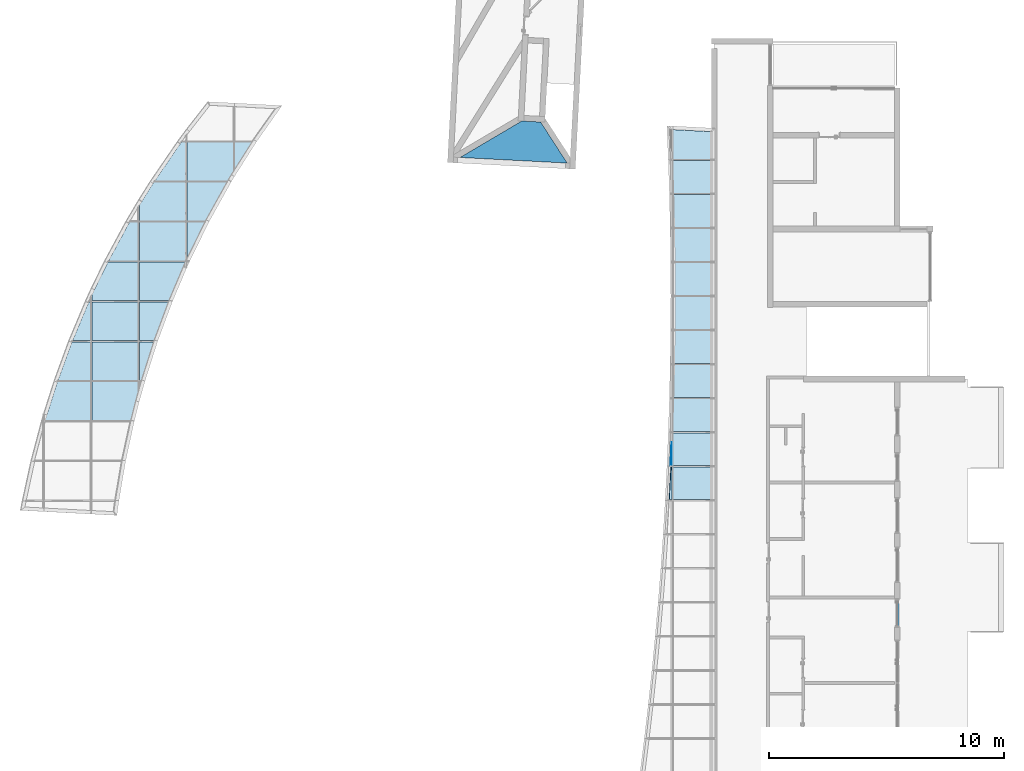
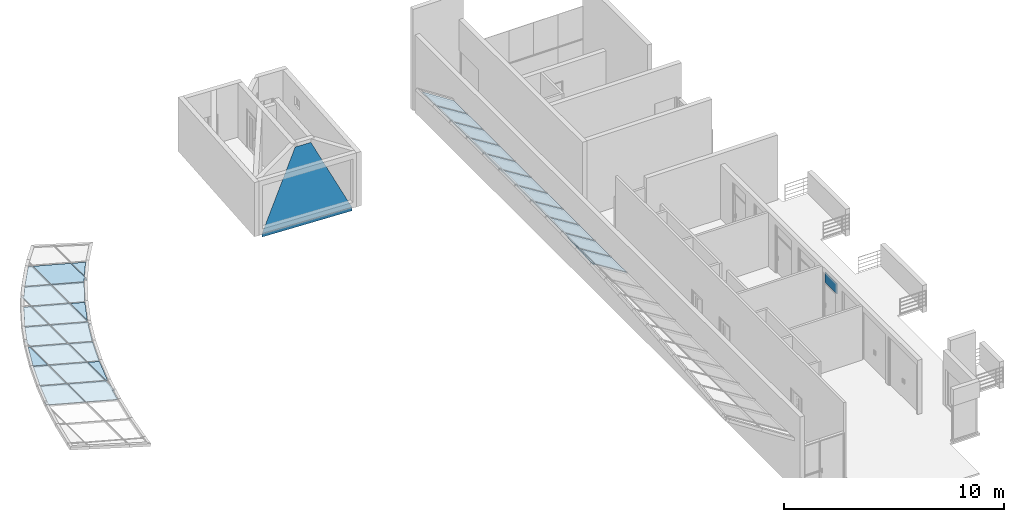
# One storey, part 15 of 33: 32 plates, 1 slab, 4 elements without a shape of their own.
"""IFC2X3 building model written with IfcOpenShell, lengths in millimetres."""

import ifcopenshell
import ifcopenshell.guid

model = None  # the IFC model being written
_history = None  # IfcOwnerHistory: only IFC2X3 demands one
_inside = {}  # id of a spatial element -> (the spatial element, [elements in it])
_under = {}  # id of a project, library or spatial element -> (it, [spatial elements below it])
_declared = {}  # id of a project -> (the project, [libraries it declares])
_typed = {}  # id of a type object -> (the type object, [elements of that type])
_made_of = {}  # id of a material, layer set ... -> (it, [elements and type objects made of it])


def new_model(schema):
    """Start an empty IFC model of exactly this schema.

    Asked for "IFC4X3", IfcOpenShell would pick the latest addendum, in which some entities
    have other attributes; the version numbers below select the first issue.
    IFC2X3 requires an IfcOwnerHistory on every rooted entity: one is made here for all.
    """
    global model, _history
    if schema == "IFC4X3":
        model = ifcopenshell.file(schema_version=(4, 3, 0, 0))
    else:
        model = ifcopenshell.file(schema=schema)
    _inside.clear()
    _under.clear()
    _declared.clear()
    _typed.clear()
    _made_of.clear()
    _history = None
    if model.schema == "IFC2X3":
        org = make("IfcOrganization", Name="unknown")
        user = make(
            "IfcPersonAndOrganization",
            ThePerson=make("IfcPerson", FamilyName="unknown"),
            TheOrganization=org,
        )
        app = make(
            "IfcApplication",
            ApplicationDeveloper=org,
            Version="unknown",
            ApplicationFullName="unknown",
            ApplicationIdentifier="unknown",
        )
        _history = make(
            "IfcOwnerHistory",
            OwningUser=user,
            OwningApplication=app,
            ChangeAction="ADDED",
            CreationDate=0,
        )
    return model


def make(cls, **values):
    """One entity of the class cls with the attributes given. An attribute that is None is left unset."""
    return model.create_entity(
        cls, **{name: value for name, value in values.items() if value is not None}
    )


def entity(cls, *values):
    """Any entity or typed value of the class cls, its attributes in the order of the schema. None: left unset."""
    e = model.create_entity(cls)
    for i, value in enumerate(values):
        if value is not None:
            e[i] = value
    return e


def rooted(cls, **values):
    """An entity with a GlobalId (a new one), such as an element, a storey or a relation."""
    return make(cls, GlobalId=ifcopenshell.guid.new(), OwnerHistory=_history, **values)


def si_unit(unit_type, name, prefix=None):
    """IfcSIUnit, for example si_unit("LENGTHUNIT", "METRE", prefix="MILLI")."""
    return make("IfcSIUnit", UnitType=unit_type, Prefix=prefix, Name=name)


def converted_unit(unit_type, name, factor, base, dimensions=None, offset=None):
    """IfcConversionBasedUnit, such as the inch: factor (a typed value) times the base unit."""
    return make(
        "IfcConversionBasedUnit"
        if offset is None
        else "IfcConversionBasedUnitWithOffset",
        ConversionOffset=offset,
        Dimensions=None
        if dimensions is None
        else entity("IfcDimensionalExponents", *dimensions),
        UnitType=unit_type,
        Name=name,
        ConversionFactor=make(
            "IfcMeasureWithUnit", ValueComponent=factor, UnitComponent=base
        ),
    )


def derived_unit(unit_type, elements):
    """IfcDerivedUnit: a product of units, each with its exponent."""
    return make(
        "IfcDerivedUnit",
        Elements=[
            make("IfcDerivedUnitElement", Unit=unit, Exponent=power)
            for unit, power in elements
        ],
        UnitType=unit_type,
    )


def assignment(units):
    """IfcUnitAssignment: the units of a project."""
    return None if units is None else make("IfcUnitAssignment", Units=units)


def point(xyz):
    """IfcCartesianPoint."""
    return None if xyz is None else make("IfcCartesianPoint", Coordinates=xyz)


def direction(xyz):
    """IfcDirection."""
    return None if xyz is None else make("IfcDirection", DirectionRatios=xyz)


def frame(location, z_axis=None, x_axis=None):
    """IfcAxis2Placement3D, a coordinate frame: its origin and axes. An axis left out is left unset."""
    return make(
        "IfcAxis2Placement3D",
        Location=point(location),
        Axis=direction(z_axis),
        RefDirection=direction(x_axis),
    )


def frame_2d(location, x_axis=None):
    """IfcAxis2Placement2D, a coordinate frame in the plane: its origin and x axis."""
    return make(
        "IfcAxis2Placement2D", Location=point(location), RefDirection=direction(x_axis)
    )


def origin():
    """The frame at (0, 0, 0) with its axes left unset."""
    return frame((0.0, 0.0, 0.0))


def origin_2d_with_axis():
    """The frame at (0, 0) in the plane with the x axis (1, 0) written out."""
    return frame_2d((0.0, 0.0), x_axis=(1.0, 0.0))


def place(relative_to, where):
    """IfcLocalPlacement: puts the frame where relative to a parent placement (None: the world)."""
    return make(
        "IfcLocalPlacement", PlacementRelTo=relative_to, RelativePlacement=where
    )


def context(
    kind, dimensions, precision=None, world=None, true_north=None, identifier=None
):
    """IfcGeometricRepresentationContext, for example the 3D "Model" context."""
    return make(
        "IfcGeometricRepresentationContext",
        ContextIdentifier=identifier,
        ContextType=kind,
        CoordinateSpaceDimension=dimensions,
        Precision=precision,
        WorldCoordinateSystem=world,
        TrueNorth=true_north,
    )


def subcontext(parent, identifier, kind, view, scale=None):
    """IfcGeometricRepresentationSubContext, for example "Body" below "Model"."""
    return make(
        "IfcGeometricRepresentationSubContext",
        ContextIdentifier=identifier,
        ContextType=kind,
        ParentContext=parent,
        TargetScale=scale,
        TargetView=view,
    )


def project(units=None, contexts=None):
    """IfcProject with its units and contexts."""
    return rooted(
        "IfcProject",
        Name="project",
        RepresentationContexts=contexts,
        UnitsInContext=assignment(units),
    )


def spatial(cls, under=None, at=None, **own):
    """A site, building, storey or space (cls), placed at a placement, below another one or the project."""
    s = rooted(cls, ObjectPlacement=at, **own)
    if under is not None:
        _under.setdefault(under.id(), (under, []))[1].append(s)
    return s


def polyline(points):
    """IfcPolyline through the points."""
    return make("IfcPolyline", Points=[point(p) for p in points])


def profile(cls, at=None, kind="AREA", **sizes):
    """A parametric profile (cls). Its sizes go by their IFC names, for example OverallWidth=200.0."""
    return make(cls, ProfileType=kind, Position=at, **sizes)


def rectangle(**sizes):
    """IfcRectangleProfileDef."""
    return profile("IfcRectangleProfileDef", **sizes)


def outline(outer, holes=None, kind="AREA"):
    """IfcArbitraryClosedProfileDef: a profile drawn as a closed curve; with holes, ...WithVoids."""
    if holes is None:
        return make("IfcArbitraryClosedProfileDef", ProfileType=kind, OuterCurve=outer)
    return make(
        "IfcArbitraryProfileDefWithVoids",
        ProfileType=kind,
        OuterCurve=outer,
        InnerCurves=holes,
    )


def extrude(swept, where, along, depth):
    """IfcExtrudedAreaSolid: the profile swept, set in the frame where, extruded along a direction by depth."""
    return make(
        "IfcExtrudedAreaSolid",
        SweptArea=swept,
        Position=where,
        ExtrudedDirection=direction(along),
        Depth=depth,
    )


def shape(context_of_items, identifier, shape_type, items):
    """IfcShapeRepresentation: the items that make up one representation, for example the "Body"."""
    return make(
        "IfcShapeRepresentation",
        ContextOfItems=context_of_items,
        RepresentationIdentifier=identifier,
        RepresentationType=shape_type,
        Items=items,
    )


def source(mapping_origin, context_of_items, identifier, shape_type, items):
    """IfcRepresentationMap: a shape defined once, which mapped items show again and again."""
    return make(
        "IfcRepresentationMap",
        MappingOrigin=mapping_origin,
        MappedRepresentation=shape(context_of_items, identifier, shape_type, items),
    )


def transform(
    local_origin,
    x_axis=None,
    y_axis=None,
    z_axis=None,
    scale=None,
    scale2=None,
    scale3=None,
    uniform=True,
):
    """IfcCartesianTransformationOperator3D, or its non-uniform kind. x_axis, y_axis, z_axis: its Axis1, 2, 3."""
    if uniform:
        return make(
            "IfcCartesianTransformationOperator3D",
            Axis1=direction(x_axis),
            Axis2=direction(y_axis),
            LocalOrigin=point(local_origin),
            Scale=scale,
            Axis3=direction(z_axis),
        )
    return make(
        "IfcCartesianTransformationOperator3DnonUniform",
        Axis1=direction(x_axis),
        Axis2=direction(y_axis),
        LocalOrigin=point(local_origin),
        Scale=scale,
        Axis3=direction(z_axis),
        Scale2=scale2,
        Scale3=scale3,
    )


def mapped(mapping_source, mapping_target):
    """IfcMappedItem: shows the shape of a source again, moved by a transform."""
    return make(
        "IfcMappedItem", MappingSource=mapping_source, MappingTarget=mapping_target
    )


def material(Name=None, Category=None):
    """IfcMaterial."""
    return make("IfcMaterial", Name=Name, Category=Category)


def layer(
    of_material, thickness, ventilated=None, Name=None, Category=None, Priority=None
):
    """IfcMaterialLayer: one layer of a wall or slab, of a material (None: an air gap)."""
    return make(
        "IfcMaterialLayer",
        Material=of_material,
        LayerThickness=thickness,
        IsVentilated=ventilated,
        Name=Name,
        Category=Category,
        Priority=Priority,
    )


def layer_set(layers, Name=None):
    """IfcMaterialLayerSet."""
    return make("IfcMaterialLayerSet", MaterialLayers=layers, LayerSetName=Name)


def layer_usage(for_layer_set, set_direction, sense, offset, extent=None):
    """IfcMaterialLayerSetUsage: how a layer set lies in its element."""
    return make(
        "IfcMaterialLayerSetUsage",
        ForLayerSet=for_layer_set,
        LayerSetDirection=set_direction,
        DirectionSense=sense,
        OffsetFromReferenceLine=offset,
        ReferenceExtent=extent,
    )


def made_of(thing, what):
    """Note that an element or type object is made of a material, layer set ...; save() writes the relation."""
    if what is not None:
        _made_of.setdefault(what.id(), (what, []))[1].append(thing)
    return thing


def type_object(cls, material=None, **own):
    """A type object (cls), such as IfcWallType, which elements share."""
    return made_of(rooted(cls, **own), material)


def type_shapes(of_type, sources):
    """Give a type object the sources (RepresentationMaps) that its elements show as mapped items."""
    of_type.RepresentationMaps = sources


def element(
    cls,
    number,
    at=None,
    inside=None,
    cuts=None,
    type_object=None,
    material=None,
    context=None,
    identifier="Body",
    shape_type=None,
    held_by="IfcProductDefinitionShape",
    body=None,
    shapes=None,
    **own,
):
    """One element of the class cls, such as IfcWall. Its Tag is "e" and its number.

    at: its placement. inside: the storey or other place that contains it. cuts: it is an
    opening in that element (IfcRelVoidsElement). A single representation is given by context,
    identifier, shape_type and body (its items); several are given by shapes. held_by: the class
    of the entity that holds the representations. save() writes the other relations.
    """
    e = rooted(cls, Tag="e%d" % number, ObjectPlacement=at, **own)
    if body is not None:
        shapes = [shape(context, identifier, shape_type, body)]
    if shapes is not None:
        e.Representation = make(held_by, Representations=shapes)
    if inside is not None:
        _inside.setdefault(inside.id(), (inside, []))[1].append(e)
    if cuts is not None:
        rooted(
            "IfcRelVoidsElement", RelatingBuildingElement=cuts, RelatedOpeningElement=e
        )
    if type_object is not None:
        _typed.setdefault(type_object.id(), (type_object, []))[1].append(e)
    return made_of(e, material)


def aggregate(whole, parts):
    """IfcRelAggregates: a whole, such as a stair, and the parts it consists of."""
    return rooted("IfcRelAggregates", RelatingObject=whole, RelatedObjects=parts)


def save(model, path):
    """Write the relations noted so far, then the file.

    IfcRelAggregates (storeys below a building ...), IfcRelContainedInSpatialStructure (elements
    in a storey), IfcRelDefinesByType, IfcRelAssociatesMaterial and IfcRelDeclares: one each for
    every whole, place, type object, material and project.
    """
    for whole, parts in _under.values():
        aggregate(whole, parts)
    for where, things in _inside.values():
        rooted(
            "IfcRelContainedInSpatialStructure",
            RelatedElements=things,
            RelatingStructure=where,
        )
    for kind, things in _typed.values():
        rooted("IfcRelDefinesByType", RelatedObjects=things, RelatingType=kind)
    for what, things in _made_of.values():
        rooted("IfcRelAssociatesMaterial", RelatedObjects=things, RelatingMaterial=what)
    for by, libraries in _declared.values():
        rooted("IfcRelDeclares", RelatingContext=by, RelatedDefinitions=libraries)
    model.write(path)


model = new_model("IFC2X3")

# Units and contexts
model_context = context("Model", 3, precision=0.01, world=origin(), true_north=direction((6.12303176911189e-17, 1.0)))
body_context = subcontext(model_context, "Body", "Model", "MODEL_VIEW")
ifc_project = project(units=[si_unit("LENGTHUNIT", "METRE", prefix="MILLI"), si_unit("AREAUNIT", "SQUARE_METRE"), si_unit("VOLUMEUNIT", "CUBIC_METRE"), converted_unit("PLANEANGLEUNIT", "DEGREE", entity("IfcRatioMeasure", 0.0174532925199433), si_unit("PLANEANGLEUNIT", "RADIAN"), dimensions=[0, 0, 0, 0, 0, 0, 0]), si_unit("MASSUNIT", "GRAM", prefix="KILO"), derived_unit("MASSDENSITYUNIT", [(si_unit("MASSUNIT", "GRAM", prefix="KILO"), 1), (si_unit("LENGTHUNIT", "METRE"), -3)]), si_unit("TIMEUNIT", "SECOND"), si_unit("FREQUENCYUNIT", "HERTZ"), si_unit("THERMODYNAMICTEMPERATUREUNIT", "DEGREE_CELSIUS"), derived_unit("THERMALTRANSMITTANCEUNIT", [(si_unit("MASSUNIT", "GRAM", prefix="KILO"), 1), (si_unit("THERMODYNAMICTEMPERATUREUNIT", "KELVIN"), -1), (si_unit("TIMEUNIT", "SECOND"), -3)]), derived_unit("VOLUMETRICFLOWRATEUNIT", [(si_unit("LENGTHUNIT", "METRE"), 3), (si_unit("TIMEUNIT", "SECOND"), -1)]), si_unit("ELECTRICCURRENTUNIT", "AMPERE"), si_unit("ELECTRICVOLTAGEUNIT", "VOLT"), si_unit("POWERUNIT", "WATT"), si_unit("FORCEUNIT", "NEWTON", prefix="KILO"), si_unit("ILLUMINANCEUNIT", "LUX"), si_unit("LUMINOUSFLUXUNIT", "LUMEN"), si_unit("LUMINOUSINTENSITYUNIT", "CANDELA"), derived_unit("USERDEFINED", [(si_unit("MASSUNIT", "GRAM", prefix="KILO"), -1), (si_unit("LENGTHUNIT", "METRE"), -2), (si_unit("TIMEUNIT", "SECOND"), 3), (si_unit("LUMINOUSFLUXUNIT", "LUMEN"), 1)]), derived_unit("LINEARVELOCITYUNIT", [(si_unit("LENGTHUNIT", "METRE"), 1), (si_unit("TIMEUNIT", "SECOND"), -1)]), si_unit("PRESSUREUNIT", "PASCAL"), derived_unit("USERDEFINED", [(si_unit("LENGTHUNIT", "METRE"), -2), (si_unit("MASSUNIT", "GRAM", prefix="KILO"), 1), (si_unit("TIMEUNIT", "SECOND"), -2)])], contexts=[model_context])

# Site, building, storey
site_placement = place(None, origin())
site = spatial("IfcSite", under=ifc_project, at=site_placement, Name="表面", CompositionType="ELEMENT")
building_placement = place(site_placement, origin())
building = spatial("IfcBuilding", under=site, at=building_placement, CompositionType="ELEMENT")
storey_placement = place(building_placement, frame((0.0, 0.0, 6000.0)))
storey = spatial("IfcBuildingStorey", under=building, at=storey_placement, Name="3F", CompositionType="ELEMENT", Elevation=6000.00000000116)

# Curtain wall, plates
curtain_wall_type_1 = type_object("IfcCurtainWallType", Name="幕墙系统:1450 x 2100mm", PredefinedType="NOTDEFINED")
curtain_wall_1_placement = place(storey_placement, frame((0.0, 0.0, -6000.0)))
curtain_wall_1 = element("IfcCurtainWall", 1, at=curtain_wall_1_placement, inside=storey, type_object=curtain_wall_type_1, Name="幕墙系统:1450 x 2100mm", ObjectType="幕墙系统:1450 x 2100mm")
ifc_material_1 = material(Name="<Unnamed>")
ifc_layer_1 = layer(ifc_material_1, 30.0)
ifc_layer_set_1 = layer_set([ifc_layer_1], Name="幕墙系统:1450 x 2100mm")
ifc_layer_usage_1 = layer_usage(ifc_layer_set_1, "AXIS3", "POSITIVE", 0.0)
plate_type_1 = type_object("IfcPlateType", Name="玻璃", PredefinedType="CURTAIN_PANEL", material=ifc_layer_set_1)
shared_shape_1 = source(origin(), body_context, "Body", "SweptSolid", [
    extrude(rectangle(XDim=30.0, YDim=1400.0, at=frame_2d((0.0, 3.97903932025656e-13), x_axis=(1.0, 0.0))), frame((0.0, 0.0, 0.0), z_axis=(0.0, 0.0, 1.0), x_axis=(0.0, 1.0, 0.0)), (0.0, 0.0, 1.0), 1925.0),
])
type_shapes(plate_type_1, [shared_shape_1])
plate_1_placement = place(curtain_wall_1_placement, frame((-14557.4571270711, -95.897906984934, 8792.70573166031), z_axis=(-0.848048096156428, 0.0, 0.529919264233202), x_axis=(0.0, -1.0, 0.0)))
plate_1 = element("IfcPlate", 2, at=plate_1_placement, type_object=plate_type_1, material=ifc_layer_usage_1, Name="系统嵌板:玻璃", ObjectType="玻璃", context=body_context, shape_type="MappedRepresentation", body=[
    mapped(shared_shape_1, transform((0.0, 0.0, 0.0), scale=1.0)),
])
ifc_layer_usage_2 = layer_usage(ifc_layer_set_1, "AXIS3", "POSITIVE", 0.0)
plate_2_placement = place(curtain_wall_1_placement, frame((-14557.4571270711, -1545.89790698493, 8792.70573166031), z_axis=(-0.848048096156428, 0.0, 0.529919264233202), x_axis=(0.0, -1.0, 0.0)))
plate_2 = element("IfcPlate", 3, at=plate_2_placement, type_object=plate_type_1, material=ifc_layer_usage_2, Name="系统嵌板:玻璃", ObjectType="玻璃", context=body_context, shape_type="MappedRepresentation", body=[
    mapped(shared_shape_1, transform((0.0, 0.0, 0.0), scale=1.0)),
])
ifc_layer_usage_3 = layer_usage(ifc_layer_set_1, "AXIS3", "POSITIVE", 0.0)
plate_3_placement = place(curtain_wall_1_placement, frame((-14557.4571270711, -2995.89790698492, 8792.70573166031), z_axis=(-0.848048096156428, 0.0, 0.529919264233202), x_axis=(0.0, -1.0, 0.0)))
plate_3 = element("IfcPlate", 4, at=plate_3_placement, type_object=plate_type_1, material=ifc_layer_usage_3, Name="系统嵌板:玻璃", ObjectType="玻璃", context=body_context, shape_type="MappedRepresentation", body=[
    mapped(shared_shape_1, transform((0.0, 0.0, 0.0), scale=1.0)),
])
ifc_layer_usage_4 = layer_usage(ifc_layer_set_1, "AXIS3", "POSITIVE", 0.0)
plate_4_placement = place(curtain_wall_1_placement, frame((-14557.4571270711, -4445.89790698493, 8792.70573166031), z_axis=(-0.848048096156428, 0.0, 0.529919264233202), x_axis=(0.0, -1.0, 0.0)))
plate_4 = element("IfcPlate", 5, at=plate_4_placement, type_object=plate_type_1, material=ifc_layer_usage_4, Name="系统嵌板:玻璃", ObjectType="玻璃", context=body_context, shape_type="MappedRepresentation", body=[
    mapped(shared_shape_1, transform((0.0, 0.0, 0.0), scale=1.0)),
])
ifc_layer_usage_5 = layer_usage(ifc_layer_set_1, "AXIS3", "POSITIVE", 0.0)
plate_5_placement = place(curtain_wall_1_placement, frame((-14557.4571270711, -5895.89790698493, 8792.70573166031), z_axis=(-0.848048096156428, 0.0, 0.529919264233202), x_axis=(0.0, -1.0, 0.0)))
plate_5 = element("IfcPlate", 6, at=plate_5_placement, type_object=plate_type_1, material=ifc_layer_usage_5, Name="系统嵌板:玻璃", ObjectType="玻璃", context=body_context, shape_type="MappedRepresentation", body=[
    mapped(shared_shape_1, transform((0.0, 0.0, 0.0), scale=1.0)),
])
ifc_layer_usage_6 = layer_usage(ifc_layer_set_1, "AXIS3", "POSITIVE", 0.0)
plate_6_placement = place(curtain_wall_1_placement, frame((-14557.4571270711, -7345.89790698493, 8792.70573166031), z_axis=(-0.848048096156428, 0.0, 0.529919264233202), x_axis=(0.0, -1.0, 0.0)))
plate_6 = element("IfcPlate", 7, at=plate_6_placement, type_object=plate_type_1, material=ifc_layer_usage_6, Name="系统嵌板:玻璃", ObjectType="玻璃", context=body_context, shape_type="MappedRepresentation", body=[
    mapped(shared_shape_1, transform((0.0, 0.0, 0.0), scale=1.0)),
])
ifc_layer_usage_7 = layer_usage(ifc_layer_set_1, "AXIS3", "POSITIVE", 0.0)
plate_7_placement = place(curtain_wall_1_placement, frame((-14557.4571270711, -8795.89790698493, 8792.70573166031), z_axis=(-0.848048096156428, 0.0, 0.529919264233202), x_axis=(0.0, -1.0, 0.0)))
plate_7 = element("IfcPlate", 8, at=plate_7_placement, type_object=plate_type_1, material=ifc_layer_usage_7, Name="系统嵌板:玻璃", ObjectType="玻璃", context=body_context, shape_type="MappedRepresentation", body=[
    mapped(shared_shape_1, transform((0.0, 0.0, 0.0), scale=1.0)),
])
ifc_layer_usage_8 = layer_usage(ifc_layer_set_1, "AXIS3", "POSITIVE", 0.0)
plate_8_placement = place(curtain_wall_1_placement, frame((-14557.4571270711, -10245.8979069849, 8792.70573166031), z_axis=(-0.848048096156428, 0.0, 0.529919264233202), x_axis=(0.0, -1.0, 0.0)))
plate_8 = element("IfcPlate", 9, at=plate_8_placement, type_object=plate_type_1, material=ifc_layer_usage_8, Name="系统嵌板:玻璃", ObjectType="玻璃", context=body_context, shape_type="MappedRepresentation", body=[
    mapped(shared_shape_1, transform((0.0, 0.0, 0.0), scale=1.0)),
])
ifc_layer_usage_9 = layer_usage(ifc_layer_set_1, "AXIS3", "POSITIVE", 0.0)
plate_9_placement = place(curtain_wall_1_placement, frame((-14557.4571270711, -11695.8979069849, 8792.7057316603), z_axis=(-0.848048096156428, 0.0, 0.529919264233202), x_axis=(0.0, -1.0, 0.0)))
plate_9 = element("IfcPlate", 10, at=plate_9_placement, type_object=plate_type_1, material=ifc_layer_usage_9, Name="系统嵌板:玻璃", ObjectType="玻璃", context=body_context, shape_type="MappedRepresentation", body=[
    mapped(shared_shape_1, transform((0.0, 0.0, 0.0), scale=1.0)),
])
ifc_layer_usage_10 = layer_usage(ifc_layer_set_1, "AXIS3", "POSITIVE", 0.0)
plate_10_placement = place(curtain_wall_1_placement, frame((-14557.4571270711, -13145.8979069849, 8792.7057316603), z_axis=(-0.848048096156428, 0.0, 0.529919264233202), x_axis=(0.0, -1.0, 0.0)))
plate_10 = element("IfcPlate", 11, at=plate_10_placement, type_object=plate_type_1, material=ifc_layer_usage_10, Name="系统嵌板:玻璃", ObjectType="玻璃", context=body_context, shape_type="MappedRepresentation", body=[
    mapped(shared_shape_1, transform((0.0, 0.0, 0.0), scale=1.0)),
])

curtain_wall_type_2 = type_object("IfcCurtainWallType", Name="幕墙系统:1700 x 2100mm", PredefinedType="NOTDEFINED")
curtain_wall_2_placement = place(storey_placement, frame((0.0, 0.0, -6000.0)))
curtain_wall_2 = element("IfcCurtainWall", 12, at=curtain_wall_2_placement, inside=storey, type_object=curtain_wall_type_2, Name="幕墙系统:1700 x 2100mm", ObjectType="幕墙系统:1700 x 2100mm")
ifc_layer_usage_11 = layer_usage(ifc_layer_set_1, "AXIS3", "POSITIVE", 0.0)
plate_type_2 = type_object("IfcPlateType", Name="玻璃", PredefinedType="CURTAIN_PANEL", material=ifc_layer_set_1)
shared_shape_2 = source(origin(), body_context, "Body", "SweptSolid", [
    extrude(outline(polyline([(-384.006686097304, -252.092580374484), (768.013372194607, -252.092580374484), (-384.006686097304, 504.185160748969), (-384.006686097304, -252.092580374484)])), frame((-192.003343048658, -15.0, 504.185160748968), z_axis=(0.0, 1.0, 0.0), x_axis=(1.0, 0.0, 0.0)), (0.0, 0.0, 1.0), 30.0),
])
type_shapes(plate_type_2, [shared_shape_2])
plate_11_placement = place(curtain_wall_2_placement, frame((-34127.4585184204, 804.617283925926, 6980.25172684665), z_axis=(-0.965925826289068, 0.0, 0.258819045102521), x_axis=(0.0, -1.0, 0.0)))
plate_11 = element("IfcPlate", 13, at=plate_11_placement, type_object=plate_type_2, material=ifc_layer_usage_11, Name="系统嵌板:玻璃", ObjectType="玻璃", context=body_context, shape_type="MappedRepresentation", body=[
    mapped(shared_shape_2, transform((0.0, 0.0, 0.0), scale=1.0)),
])
ifc_layer_usage_12 = layer_usage(ifc_layer_set_1, "AXIS3", "POSITIVE", 0.0)
plate_type_3 = type_object("IfcPlateType", Name="玻璃", PredefinedType="CURTAIN_PANEL", material=ifc_layer_set_1)
shared_shape_3 = source(origin(), body_context, "Body", "SweptSolid", [
    extrude(outline(polyline([(-744.851008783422, -1024.67667714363), (1305.14899121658, -1024.67667714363), (1305.14899121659, 625.323322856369), (-478.379163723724, 625.323322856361), (-642.216801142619, 359.953135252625), (-744.851008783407, 438.753573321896), (-744.851008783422, -1024.67667714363)])), frame((199.676677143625, -15.0, 744.851008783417), z_axis=(0.0, 1.0, 0.0), x_axis=(0.0, 0.0, 1.0)), (0.0, 0.0, 1.0), 30.0),
])
type_shapes(plate_type_3, [shared_shape_3])
plate_12_placement = place(curtain_wall_2_placement, frame((-34906.2630117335, 555.627313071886, 7188.93176189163), z_axis=(-0.965925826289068, 0.0, 0.258819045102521), x_axis=(0.0, -1.0, 0.0)))
plate_12 = element("IfcPlate", 14, at=plate_12_placement, type_object=plate_type_3, material=ifc_layer_usage_12, Name="系统嵌板:玻璃", ObjectType="玻璃", context=body_context, shape_type="MappedRepresentation", body=[
    mapped(shared_shape_3, transform((0.0, 0.0, 0.0), scale=1.0)),
])
ifc_layer_usage_13 = layer_usage(ifc_layer_set_1, "AXIS3", "POSITIVE", 0.0)
plate_type_4 = type_object("IfcPlateType", Name="玻璃", PredefinedType="CURTAIN_PANEL", material=ifc_layer_set_1)
shared_shape_4 = source(origin(), body_context, "Body", "SweptSolid", [
    extrude(outline(polyline([(-1116.14764000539, -825.0), (640.696408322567, -825.0), (640.696408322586, 825.0), (-165.245176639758, 825.0), (-1116.14764000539, -825.0)])), frame((0.0, -15.0, 1116.14764000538), z_axis=(0.0, 1.0, 0.0), x_axis=(0.0, 0.0, 1.0)), (0.0, 0.0, 1.0), 30.0),
])
type_shapes(plate_type_4, [shared_shape_4])
plate_13_placement = place(curtain_wall_2_placement, frame((-35189.4299165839, -1144.37268692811, 7264.80610536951), z_axis=(-0.965925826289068, 0.0, 0.258819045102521), x_axis=(0.0, -1.0, 0.0)))
plate_13 = element("IfcPlate", 15, at=plate_13_placement, type_object=plate_type_4, material=ifc_layer_usage_13, Name="系统嵌板:玻璃", ObjectType="玻璃", context=body_context, shape_type="MappedRepresentation", body=[
    mapped(shared_shape_4, transform((0.0, 0.0, 0.0), scale=1.0)),
])
ifc_layer_usage_14 = layer_usage(ifc_layer_set_1, "AXIS3", "POSITIVE", 0.0)
plate_type_5 = type_object("IfcPlateType", Name="玻璃", PredefinedType="CURTAIN_PANEL", material=ifc_layer_set_1)
shared_shape_5 = source(origin(), body_context, "Body", "SweptSolid", [
    extrude(outline(polyline([(-514.558983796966, -261.247439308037), (1029.11796759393, -261.247439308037), (-514.558983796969, 522.494878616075), (-514.558983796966, -261.247439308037)])), frame((-257.279491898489, -15.0, 522.494878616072), z_axis=(0.0, 1.0, 0.0), x_axis=(1.0, 0.0, 0.0)), (0.0, 0.0, 1.0), 30.0),
])
type_shapes(plate_type_5, [shared_shape_5])
plate_14_placement = place(curtain_wall_2_placement, frame((-36129.3740095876, -2791.21116262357, 7516.66336602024), z_axis=(-0.965925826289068, 0.0, 0.258819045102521), x_axis=(0.0, -1.0, 0.0)))
plate_14 = element("IfcPlate", 16, at=plate_14_placement, type_object=plate_type_5, material=ifc_layer_usage_14, Name="系统嵌板:玻璃", ObjectType="玻璃", context=body_context, shape_type="MappedRepresentation", body=[
    mapped(shared_shape_5, transform((0.0, 0.0, 0.0), scale=1.0)),
])
ifc_layer_usage_15 = layer_usage(ifc_layer_set_1, "AXIS3", "POSITIVE", 0.0)
plate_type_6 = type_object("IfcPlateType", Name="玻璃", PredefinedType="CURTAIN_PANEL", material=ifc_layer_set_1)
shared_shape_6 = source(origin(), body_context, "Body", "SweptSolid", [
    extrude(outline(polyline([(-395.802579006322, -825.0), (-187.611807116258, -825.0), (979.216965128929, 825.0), (-395.802579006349, 825.0), (-395.802579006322, -825.0)])), frame((0.0, -15.0, 395.802579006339), z_axis=(0.0, 1.0, 0.0), x_axis=(0.0, 0.0, 1.0)), (0.0, 0.0, 1.0), 30.0),
])
type_shapes(plate_type_6, [shared_shape_6])
plate_15_placement = place(curtain_wall_2_placement, frame((-36934.7072469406, 555.627313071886, 7732.45175660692), z_axis=(-0.965925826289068, 0.0, 0.258819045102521), x_axis=(0.0, -1.0, 0.0)))
plate_15 = element("IfcPlate", 17, at=plate_15_placement, type_object=plate_type_6, material=ifc_layer_usage_15, Name="系统嵌板:玻璃", ObjectType="玻璃", context=body_context, shape_type="MappedRepresentation", body=[
    mapped(shared_shape_6, transform((0.0, 0.0, 0.0), scale=1.0)),
])
ifc_layer_usage_16 = layer_usage(ifc_layer_set_1, "AXIS3", "POSITIVE", 0.0)
plate_type_7 = type_object("IfcPlateType", Name="玻璃", PredefinedType="CURTAIN_PANEL", material=ifc_layer_set_1)
shared_shape_7 = source(origin(), body_context, "Body", "SweptSolid", [
    extrude(outline(polyline([(-1243.83267761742, -811.164272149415), (169.958553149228, -811.164272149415), (705.372157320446, 13.1806447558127), (806.167322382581, -68.5235561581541), (806.167322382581, 838.835727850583), (-1243.83267761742, 838.835727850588), (-1243.83267761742, -811.164272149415)])), frame((-13.8357278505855, -15.0, 1243.83267761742), z_axis=(0.0, 1.0, 0.0), x_axis=(0.0, 0.0, 1.0)), (0.0, 0.0, 1.0), 30.0),
])
type_shapes(plate_type_7, [shared_shape_7])
plate_16_placement = place(curtain_wall_2_placement, frame((-36934.7072469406, -1144.37268692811, 7732.45175660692), z_axis=(-0.965925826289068, 0.0, 0.258819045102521), x_axis=(0.0, -1.0, 0.0)))
plate_16 = element("IfcPlate", 18, at=plate_16_placement, type_object=plate_type_7, material=ifc_layer_usage_16, Name="系统嵌板:玻璃", ObjectType="玻璃", context=body_context, shape_type="MappedRepresentation", body=[
    mapped(shared_shape_7, transform((0.0, 0.0, 0.0), scale=1.0)),
])
ifc_layer_usage_17 = layer_usage(ifc_layer_set_1, "AXIS3", "POSITIVE", 0.0)
plate_type_8 = type_object("IfcPlateType", Name="玻璃", PredefinedType="CURTAIN_PANEL", material=ifc_layer_set_1)
shared_shape_8 = source(origin(), body_context, "Body", "SweptSolid", [
    extrude(rectangle(XDim=30.0, YDim=1649.99999999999, at=origin_2d_with_axis()), frame((0.0, 0.0, 0.0), z_axis=(0.0, 0.0, 1.0), x_axis=(0.0, 1.0, 0.0)), (0.0, 0.0, 1.0), 2050.0),
])
type_shapes(plate_type_8, [shared_shape_8])
plate_17_placement = place(curtain_wall_2_placement, frame((-36934.7072469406, -2844.37268692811, 7732.45175660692), z_axis=(-0.965925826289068, 0.0, 0.258819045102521), x_axis=(0.0, -1.0, 0.0)))
plate_17 = element("IfcPlate", 19, at=plate_17_placement, type_object=plate_type_8, material=ifc_layer_usage_17, Name="系统嵌板:玻璃", ObjectType="玻璃", context=body_context, shape_type="MappedRepresentation", body=[
    mapped(shared_shape_8, transform((0.0, 0.0, 0.0), scale=1.0)),
])
ifc_layer_usage_18 = layer_usage(ifc_layer_set_1, "AXIS3", "POSITIVE", 0.0)
plate_18_placement = place(curtain_wall_2_placement, frame((-38963.1514821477, -6244.3726869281, 8275.97175132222), z_axis=(-0.965925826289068, 0.0, 0.258819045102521), x_axis=(0.0, -1.0, 0.0)))
plate_18 = element("IfcPlate", 20, at=plate_18_placement, type_object=plate_type_8, material=ifc_layer_usage_18, Name="系统嵌板:玻璃", ObjectType="玻璃", context=body_context, shape_type="MappedRepresentation", body=[
    mapped(shared_shape_8, transform((0.0, 0.0, 0.0), scale=1.0)),
])
ifc_layer_usage_19 = layer_usage(ifc_layer_set_1, "AXIS3", "POSITIVE", 0.0)
plate_19_placement = place(curtain_wall_2_placement, frame((-38963.1514821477, -7944.3726869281, 8275.97175132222), z_axis=(-0.965925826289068, 0.0, 0.258819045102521), x_axis=(0.0, -1.0, 0.0)))
plate_19 = element("IfcPlate", 21, at=plate_19_placement, type_object=plate_type_8, material=ifc_layer_usage_19, Name="系统嵌板:玻璃", ObjectType="玻璃", context=body_context, shape_type="MappedRepresentation", body=[
    mapped(shared_shape_8, transform((0.0, 0.0, 0.0), scale=1.0)),
])
ifc_layer_usage_20 = layer_usage(ifc_layer_set_1, "AXIS3", "POSITIVE", 0.0)
plate_type_9 = type_object("IfcPlateType", Name="玻璃", PredefinedType="CURTAIN_PANEL", material=ifc_layer_set_1)
shared_shape_9 = source(origin(), body_context, "Body", "SweptSolid", [
    extrude(outline(polyline([(-828.181608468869, -621.30557779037), (1221.81839153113, -621.30557779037), (1221.81839153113, 1028.69442220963), (-71.4136629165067, 1028.69442220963), (-715.859903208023, -437.566440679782), (-828.18160846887, -377.211248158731), (-828.181608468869, -621.30557779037)])), frame((-203.694422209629, -15.0, 828.181608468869), z_axis=(0.0, 1.0, 0.0), x_axis=(0.0, 0.0, 1.0)), (0.0, 0.0, 1.0), 30.0),
])
type_shapes(plate_type_9, [shared_shape_9])
plate_20_placement = place(curtain_wall_2_placement, frame((-36934.7072469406, -4544.37268692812, 7732.45175660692), z_axis=(-0.965925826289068, 0.0, 0.258819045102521), x_axis=(0.0, -1.0, 0.0)))
plate_20 = element("IfcPlate", 22, at=plate_20_placement, type_object=plate_type_9, material=ifc_layer_usage_20, Name="系统嵌板:玻璃", ObjectType="玻璃", context=body_context, shape_type="MappedRepresentation", body=[
    mapped(shared_shape_9, transform((0.0, 0.0, 0.0), scale=1.0)),
])
ifc_layer_usage_21 = layer_usage(ifc_layer_set_1, "AXIS3", "POSITIVE", 0.0)
plate_type_10 = type_object("IfcPlateType", Name="玻璃", PredefinedType="CURTAIN_PANEL", material=ifc_layer_set_1)
shared_shape_10 = source(origin(), body_context, "Body", "SweptSolid", [
    extrude(outline(polyline([(-796.7694246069, -825.0), (478.946735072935, -825.0), (478.946735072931, 825.0), (-161.124045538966, 825.0), (-796.7694246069, -825.0)])), frame((0.0, -15.0, 796.769424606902), z_axis=(0.0, 1.0, 0.0), x_axis=(0.0, 0.0, 1.0)), (0.0, 0.0, 1.0), 30.0),
])
type_shapes(plate_type_10, [shared_shape_10])
plate_21_placement = place(curtain_wall_2_placement, frame((-37682.6080051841, -6244.37268692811, 7932.8511607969), z_axis=(-0.965925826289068, 0.0, 0.258819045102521), x_axis=(0.0, -1.0, 0.0)))
plate_21 = element("IfcPlate", 23, at=plate_21_placement, type_object=plate_type_10, material=ifc_layer_usage_21, Name="系统嵌板:玻璃", ObjectType="玻璃", context=body_context, shape_type="MappedRepresentation", body=[
    mapped(shared_shape_10, transform((0.0, 0.0, 0.0), scale=1.0)),
])
ifc_layer_usage_22 = layer_usage(ifc_layer_set_1, "AXIS3", "POSITIVE", 0.0)
plate_type_11 = type_object("IfcPlateType", Name="玻璃", PredefinedType="CURTAIN_PANEL", material=ifc_layer_set_1)
shared_shape_11 = source(origin(), body_context, "Body", "SweptSolid", [
    extrude(outline(polyline([(-448.39594938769, -825.0), (176.624955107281, -825.0), (176.624955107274, 825.0), (95.1460391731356, 825.0), (-448.39594938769, -825.0)])), frame((0.0, -15.0, 448.395949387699), z_axis=(0.0, 1.0, 0.0), x_axis=(0.0, 0.0, 1.0)), (0.0, 0.0, 1.0), 30.0),
])
type_shapes(plate_type_11, [shared_shape_11])
plate_22_placement = place(curtain_wall_2_placement, frame((-38311.131357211, -7944.3726869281, 8101.26348539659), z_axis=(-0.965925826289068, 0.0, 0.258819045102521), x_axis=(0.0, -1.0, 0.0)))
plate_22 = element("IfcPlate", 24, at=plate_22_placement, type_object=plate_type_11, material=ifc_layer_usage_22, Name="系统嵌板:玻璃", ObjectType="玻璃", context=body_context, shape_type="MappedRepresentation", body=[
    mapped(shared_shape_11, transform((0.0, 0.0, 0.0), scale=1.0)),
])
ifc_layer_usage_23 = layer_usage(ifc_layer_set_1, "AXIS3", "POSITIVE", 0.0)
plate_type_12 = type_object("IfcPlateType", Name="玻璃", PredefinedType="CURTAIN_PANEL", material=ifc_layer_set_1)
shared_shape_12 = source(origin(), body_context, "Body", "SweptSolid", [
    extrude(outline(polyline([(-424.568312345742, -825.0), (-36.3549644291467, -825.0), (885.491589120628, 825.0), (-424.568312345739, 825.0), (-424.568312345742, -825.0)])), frame((0.0, -15.0, 424.568312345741), z_axis=(0.0, 1.0, 0.0), x_axis=(0.0, 0.0, 1.0)), (0.0, 0.0, 1.0), 30.0),
])
type_shapes(plate_type_12, [shared_shape_12])
plate_23_placement = place(curtain_wall_2_placement, frame((-38963.1514821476, -2844.37268692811, 8275.97175132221), z_axis=(-0.965925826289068, 0.0, 0.258819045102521), x_axis=(0.0, -1.0, 0.0)))
plate_23 = element("IfcPlate", 25, at=plate_23_placement, type_object=plate_type_12, material=ifc_layer_usage_23, Name="系统嵌板:玻璃", ObjectType="玻璃", context=body_context, shape_type="MappedRepresentation", body=[
    mapped(shared_shape_12, transform((0.0, 0.0, 0.0), scale=1.0)),
])
ifc_layer_usage_24 = layer_usage(ifc_layer_set_1, "AXIS3", "POSITIVE", 0.0)
plate_type_13 = type_object("IfcPlateType", Name="玻璃", PredefinedType="CURTAIN_PANEL", material=ifc_layer_set_1)
shared_shape_13 = source(origin(), body_context, "Body", "SweptSolid", [
    extrude(outline(polyline([(-1230.25458091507, -935.91762188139), (110.219347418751, -935.91762188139), (710.798976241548, 255.593022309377), (819.745419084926, 188.077465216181), (819.745419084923, 714.082378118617), (-1230.25458091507, 714.082378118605), (-1230.25458091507, -935.91762188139)])), frame((110.917621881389, -15.0, 1230.25458091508), z_axis=(0.0, 1.0, 0.0), x_axis=(0.0, 0.0, 1.0)), (0.0, 0.0, 1.0), 30.0),
])
type_shapes(plate_type_13, [shared_shape_13])
plate_24_placement = place(curtain_wall_2_placement, frame((-38963.1514821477, -4544.37268692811, 8275.97175132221), z_axis=(-0.965925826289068, 0.0, 0.258819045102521), x_axis=(0.0, -1.0, 0.0)))
plate_24 = element("IfcPlate", 26, at=plate_24_placement, type_object=plate_type_13, material=ifc_layer_usage_24, Name="系统嵌板:玻璃", ObjectType="玻璃", context=body_context, shape_type="MappedRepresentation", body=[
    mapped(shared_shape_13, transform((0.0, 0.0, 0.0), scale=1.0)),
])
ifc_layer_usage_25 = layer_usage(ifc_layer_set_1, "AXIS3", "POSITIVE", 0.0)
plate_type_14 = type_object("IfcPlateType", Name="玻璃", PredefinedType="CURTAIN_PANEL", material=ifc_layer_set_1)
shared_shape_14 = source(origin(), body_context, "Body", "SweptSolid", [
    extrude(outline(polyline([(-759.508377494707, -831.112950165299), (1290.49162250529, -831.112950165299), (1290.4916225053, 818.887049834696), (-422.536582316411, 818.887049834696), (-639.429907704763, -6.82821735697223), (-759.508377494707, 31.2800180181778), (-759.508377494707, -831.112950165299)])), frame((6.11295016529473, -15.0, 759.508377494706), z_axis=(0.0, 1.0, 0.0), x_axis=(0.0, 0.0, 1.0)), (0.0, 0.0, 1.0), 30.0),
])
type_shapes(plate_type_14, [shared_shape_14])
plate_25_placement = place(curtain_wall_2_placement, frame((-38963.1514821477, -9644.37268692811, 8275.97175132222), z_axis=(-0.965925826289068, 0.0, 0.258819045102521), x_axis=(0.0, -1.0, 0.0)))
plate_25 = element("IfcPlate", 27, at=plate_25_placement, type_object=plate_type_14, material=ifc_layer_usage_25, Name="系统嵌板:玻璃", ObjectType="玻璃", context=body_context, shape_type="MappedRepresentation", body=[
    mapped(shared_shape_14, transform((0.0, 0.0, 0.0), scale=1.0)),
])
ifc_layer_usage_26 = layer_usage(ifc_layer_set_1, "AXIS3", "POSITIVE", 0.0)
plate_type_15 = type_object("IfcPlateType", Name="玻璃", PredefinedType="CURTAIN_PANEL", material=ifc_layer_set_1)
shared_shape_15 = source(origin(), body_context, "Body", "SweptSolid", [
    extrude(outline(polyline([(-220.521196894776, -825.0), (-137.507501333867, -825.0), (578.549895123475, 825.0), (-220.521196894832, 825.0), (-220.521196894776, -825.0)])), frame((0.0, -15.0, 220.521196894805), z_axis=(0.0, 1.0, 0.0), x_axis=(0.0, 0.0, 1.0)), (0.0, 0.0, 1.0), 30.0),
])
type_shapes(plate_type_15, [shared_shape_15])
plate_26_placement = place(curtain_wall_2_placement, frame((-40991.5957173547, -6244.37268692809, 8819.49174603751), z_axis=(-0.965925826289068, 0.0, 0.258819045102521), x_axis=(0.0, -1.0, 0.0)))
plate_26 = element("IfcPlate", 28, at=plate_26_placement, type_object=plate_type_15, material=ifc_layer_usage_26, Name="系统嵌板:玻璃", ObjectType="玻璃", context=body_context, shape_type="MappedRepresentation", body=[
    mapped(shared_shape_15, transform((0.0, 0.0, 0.0), scale=1.0)),
])
ifc_layer_usage_27 = layer_usage(ifc_layer_set_1, "AXIS3", "POSITIVE", 0.0)
plate_type_16 = type_object("IfcPlateType", Name="玻璃", PredefinedType="CURTAIN_PANEL", material=ifc_layer_set_1)
shared_shape_16 = source(origin(), body_context, "Body", "SweptSolid", [
    extrude(outline(polyline([(-567.046139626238, -825.0), (255.491789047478, -825.0), (878.600490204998, 825.0), (-567.046139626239, 825.0), (-567.046139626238, -825.0)])), frame((0.0, -15.0, 567.046139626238), z_axis=(0.0, 1.0, 0.0), x_axis=(0.0, 0.0, 1.0)), (0.0, 0.0, 1.0), 30.0),
])
type_shapes(plate_type_16, [shared_shape_16])
plate_27_placement = place(curtain_wall_2_placement, frame((-40991.5957173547, -7944.3726869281, 8819.49174603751), z_axis=(-0.965925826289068, 0.0, 0.258819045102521), x_axis=(0.0, -1.0, 0.0)))
plate_27 = element("IfcPlate", 29, at=plate_27_placement, type_object=plate_type_16, material=ifc_layer_usage_27, Name="系统嵌板:玻璃", ObjectType="玻璃", context=body_context, shape_type="MappedRepresentation", body=[
    mapped(shared_shape_16, transform((0.0, 0.0, 0.0), scale=1.0)),
])
ifc_layer_usage_28 = layer_usage(ifc_layer_set_1, "AXIS3", "POSITIVE", 0.0)
plate_type_17 = type_object("IfcPlateType", Name="玻璃", PredefinedType="CURTAIN_PANEL", material=ifc_layer_set_1)
shared_shape_17 = source(origin(), body_context, "Body", "SweptSolid", [
    extrude(outline(polyline([(-1249.70902936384, -1015.23822216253), (216.035814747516, -1015.23822216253), (682.800302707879, 403.909378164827), (800.290970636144, 357.043510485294), (800.290970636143, 634.761777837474), (-1249.70902936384, 634.761777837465), (-1249.70902936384, -1015.23822216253)])), frame((190.23822216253, -15.0, 1249.70902936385), z_axis=(0.0, 1.0, 0.0), x_axis=(0.0, 0.0, 1.0)), (0.0, 0.0, 1.0), 30.0),
])
type_shapes(plate_type_17, [shared_shape_17])
plate_28_placement = place(curtain_wall_2_placement, frame((-40991.5957173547, -9644.3726869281, 8819.49174603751), z_axis=(-0.965925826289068, 0.0, 0.258819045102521), x_axis=(0.0, -1.0, 0.0)))
plate_28 = element("IfcPlate", 30, at=plate_28_placement, type_object=plate_type_17, material=ifc_layer_usage_28, Name="系统嵌板:玻璃", ObjectType="玻璃", context=body_context, shape_type="MappedRepresentation", body=[
    mapped(shared_shape_17, transform((0.0, 0.0, 0.0), scale=1.0)),
])
aggregate(curtain_wall_2, [plate_11, plate_12, plate_13, plate_14, plate_15, plate_16, plate_17, plate_20, plate_21, plate_22, plate_23, plate_24, plate_18, plate_19, plate_25, plate_26, plate_27, plate_28])

# Curtain wall, plate
curtain_wall_type_3 = type_object("IfcCurtainWallType", Name="幕墙:幕墙 4", PredefinedType="NOTDEFINED")
curtain_wall_3_placement = place(storey_placement, frame((0.0, 0.0, -6000.0)))
curtain_wall_3 = element("IfcCurtainWall", 31, at=curtain_wall_3_placement, inside=storey, type_object=curtain_wall_type_3, Name="幕墙:幕墙 4", ObjectType="幕墙:幕墙 4")
ifc_layer_usage_29 = layer_usage(ifc_layer_set_1, "AXIS3", "POSITIVE", 0.0)
plate_type_18 = type_object("IfcPlateType", Name="玻璃", PredefinedType="CURTAIN_PANEL", material=ifc_layer_set_1)
shared_shape_18 = source(origin(), body_context, "Body", "SweptSolid", [
    extrude(rectangle(XDim=30.0, YDim=1100.0, at=origin_2d_with_axis()), frame((0.0, 0.0, 0.0), z_axis=(0.0, 0.0, 1.0), x_axis=(0.0, 1.0, 0.0)), (0.0, 0.0, 1.0), 550.0),
])
type_shapes(plate_type_18, [shared_shape_18])
plate_29_placement = place(curtain_wall_3_placement, frame((-6630.24991264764, -18676.868426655, 8100.0), z_axis=(0.0, 0.0, 1.0), x_axis=(0.0, -1.0, 0.0)))
plate_29 = element("IfcPlate", 32, at=plate_29_placement, type_object=plate_type_18, material=ifc_layer_usage_29, Name="系统嵌板:玻璃", ObjectType="玻璃", context=body_context, shape_type="MappedRepresentation", body=[
    mapped(shared_shape_18, transform((0.0, 0.0, 0.0), scale=1.0)),
])
aggregate(curtain_wall_3, [plate_29])

# Plate
ifc_layer_usage_30 = layer_usage(ifc_layer_set_1, "AXIS3", "POSITIVE", 0.0)
plate_type_19 = type_object("IfcPlateType", Name="玻璃", PredefinedType="CURTAIN_PANEL", material=ifc_layer_set_1)
shared_shape_19 = source(origin(), body_context, "Body", "SweptSolid", [
    extrude(outline(polyline([(-936.34656633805, -609.832214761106), (990.553719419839, -609.832214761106), (934.447217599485, 652.567683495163), (-988.654370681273, 567.09674602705), (-936.34656633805, -609.832214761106)])), frame((21.3888277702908, -15.0, 962.499999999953), z_axis=(0.0, 1.0, 0.0), x_axis=(-0.0444004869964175, 0.0, 0.999013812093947)), (0.0, 0.0, 1.0), 30.0),
])
type_shapes(plate_type_19, [shared_shape_19])
plate_30_placement = place(curtain_wall_1_placement, frame((-14557.4571270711, 1285.9251383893, 8792.70573166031), z_axis=(-0.848048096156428, 0.0, 0.529919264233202), x_axis=(0.0, -1.0, 0.0)))
plate_30 = element("IfcPlate", 33, at=plate_30_placement, type_object=plate_type_19, material=ifc_layer_usage_30, Name="系统嵌板:玻璃", ObjectType="玻璃", context=body_context, shape_type="MappedRepresentation", body=[
    mapped(shared_shape_19, transform((0.0, 0.0, 0.0), scale=1.0)),
])

ifc_layer_usage_31 = layer_usage(ifc_layer_set_1, "AXIS3", "POSITIVE", 0.0)
plate_type_20 = type_object("IfcPlateType", Name="玻璃", PredefinedType="CURTAIN_PANEL", material=ifc_layer_set_1)
shared_shape_20 = source(origin(), body_context, "Body", "SweptSolid", [
    extrude(outline(polyline([(-667.273270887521, -16.2329789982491), (334.822756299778, -16.2329789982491), (332.450514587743, 32.4659579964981), (-667.273270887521, -16.2329789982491)])), frame((166.818200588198, -15.0, 16.2522271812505), z_axis=(0.0, 1.0, 0.0), x_axis=(0.998815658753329, 0.0, 0.0486546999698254)), (0.0, 0.0, 1.0), 30.0),
])
type_shapes(plate_type_20, [shared_shape_20])
plate_31_placement = place(curtain_wall_1_placement, frame((-16232.35211698, -11895.4433052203, 9839.29627852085), z_axis=(-0.848048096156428, 0.0, 0.529919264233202), x_axis=(0.0, -1.0, 0.0)))
plate_31 = element("IfcPlate", 34, at=plate_31_placement, type_object=plate_type_20, material=ifc_layer_usage_31, Name="系统嵌板:玻璃", ObjectType="玻璃", context=body_context, shape_type="MappedRepresentation", body=[
    mapped(shared_shape_20, transform((0.0, 0.0, 0.0), scale=1.0)),
])

ifc_layer_usage_32 = layer_usage(ifc_layer_set_1, "AXIS3", "POSITIVE", 0.0)
plate_type_21 = type_object("IfcPlateType", Name="玻璃", PredefinedType="CURTAIN_PANEL", material=ifc_layer_set_1)
shared_shape_21 = source(origin(), body_context, "Body", "SweptSolid", [
    extrude(outline(polyline([(-46.5455450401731, -700.0), (4.83051809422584, -700.0), (88.2605719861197, 700.0), (-46.5455450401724, 700.0), (-46.5455450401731, -700.0)])), frame((0.0, -15.0, 46.5455450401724), z_axis=(0.0, 1.0, 0.0), x_axis=(0.0, 0.0, 1.0)), (0.0, 0.0, 1.0), 30.0),
])
type_shapes(plate_type_21, [shared_shape_21])
plate_32_placement = place(curtain_wall_1_placement, frame((-16232.35211698, -13145.8979069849, 9839.29627852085), z_axis=(-0.848048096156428, 0.0, 0.529919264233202), x_axis=(0.0, -1.0, 0.0)))
plate_32 = element("IfcPlate", 35, at=plate_32_placement, type_object=plate_type_21, material=ifc_layer_usage_32, Name="系统嵌板:玻璃", ObjectType="玻璃", context=body_context, shape_type="MappedRepresentation", body=[
    mapped(shared_shape_21, transform((0.0, 0.0, 0.0), scale=1.0)),
])

aggregate(curtain_wall_1, [plate_30, plate_1, plate_2, plate_3, plate_4, plate_5, plate_6, plate_7, plate_8, plate_9, plate_10, plate_31, plate_32])

# Roof, slab
roof_placement = place(storey_placement, frame((-25255.2472974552, 490.980328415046, -327.165864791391)))
roof = element("IfcRoof", 36, at=roof_placement, inside=storey, Name="基本屋顶:白屋顶", ObjectType="基本屋顶:白屋顶", ShapeType="NOTDEFINED")
ifc_material_2 = material(Name="白色涂料")
ifc_layer_2 = layer(ifc_material_2, 10.0)
ifc_material_3 = material(Name="默认屋顶")
ifc_layer_3 = layer(ifc_material_3, 80.0)
ifc_layer_4 = layer(ifc_material_2, 10.0)
ifc_layer_set_2 = layer_set([ifc_layer_2, ifc_layer_3, ifc_layer_4], Name="基本屋顶:白屋顶")
slab_placement = place(roof_placement, origin())
slab = element("IfcSlab", 37, at=slab_placement, material=ifc_layer_set_2, Name="基本屋顶:白屋顶", ObjectType="基本屋顶:白屋顶", PredefinedType="ROOF", context=body_context, shape_type="SweptSolid", body=[
    extrude(outline(polyline([(-2331.81625662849, -1629.47745861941), (2243.27750171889, -1749.36271056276), (1106.33018490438, 1661.58996040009), (303.98283307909, 1682.61458186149), (-2331.81625662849, -1629.47745861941)])), frame((2329.41991278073, 963.604006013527, 1463.58293239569), z_axis=(-0.0453242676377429, -0.864838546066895, 0.500000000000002), x_axis=(0.998972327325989, -0.0392384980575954, 0.0226854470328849)), (0.0226854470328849, 0.865728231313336, 0.500000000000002), 200.0),
])
aggregate(roof, [slab])

save(model, "model.ifc")
